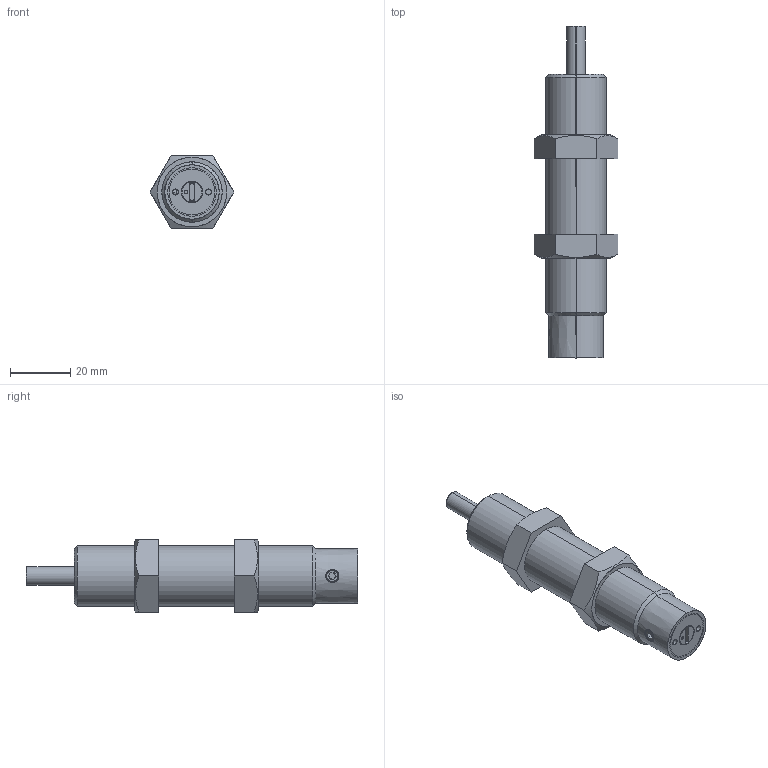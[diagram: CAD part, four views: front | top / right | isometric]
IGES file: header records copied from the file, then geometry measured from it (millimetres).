
Start section: SolidWorks IGES file using analytic representation for surfaces
Bounding box: 27.71 x 110 x 24 mm (x, y, z)
Surface area: 9888.1 mm2 (no closed solid volume)
Topology: 0 solids, 0 shells, 90 faces, 1348 edges, 1348 vertices
Faces by surface type: revolution 48, bspline 42
